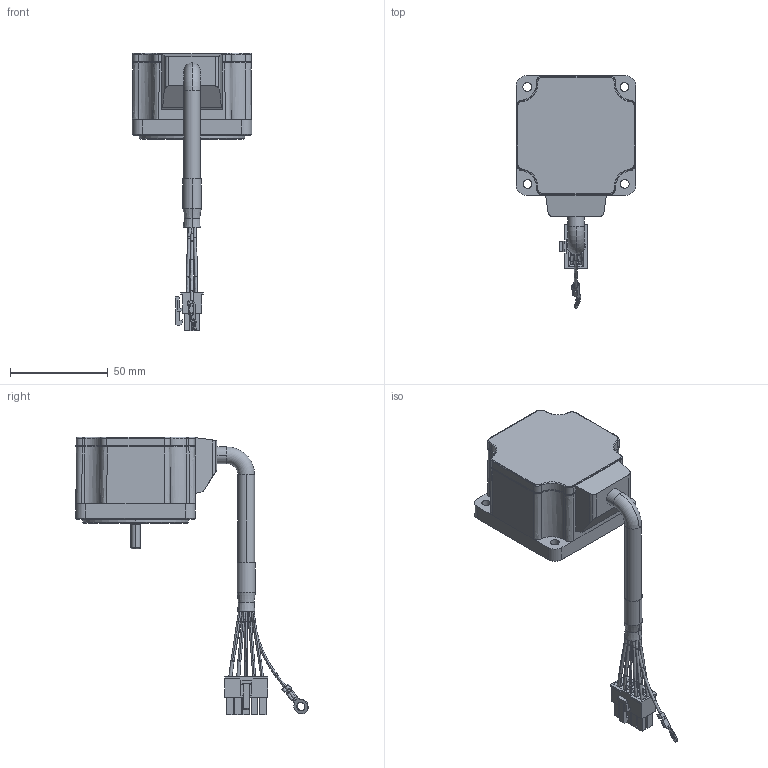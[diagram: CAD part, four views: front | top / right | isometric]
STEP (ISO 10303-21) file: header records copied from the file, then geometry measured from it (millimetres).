
FILE_DESCRIPTION (( 'STEP AP214' ), '1' );
FILE_NAME ('K6BH30N¡à.STEP', '2023-07-27T00:43:18', ( '' ), ( '' ), 'SwSTEP 2.0', 'SolidWorks 2022', '' );
FILE_SCHEMA (( 'AUTOMOTIVE_DESIGN' ));
Length unit declared in the file: millimetre
Products named in the file (1): K6BH30N﹤
Bounding box: 61.1 x 118.7 x 141.85 mm (x, y, z)
Volume: 157368.8 mm3; surface area: 35294.1 mm2
Topology: 4 solids, 13 shells, 806 faces, 2139 edges, 1361 vertices
Faces by surface type: plane 522, cylinder 131, bspline 105, cone 26, torus 22
Entity records: 27932 total; most frequent: CARTESIAN_POINT 7046, ORIENTED_EDGE 4290, DIRECTION 3664, EDGE_CURVE 2145, VECTOR 1494, LINE 1494, VERTEX_POINT 1361, AXIS2_PLACEMENT_3D 1085
